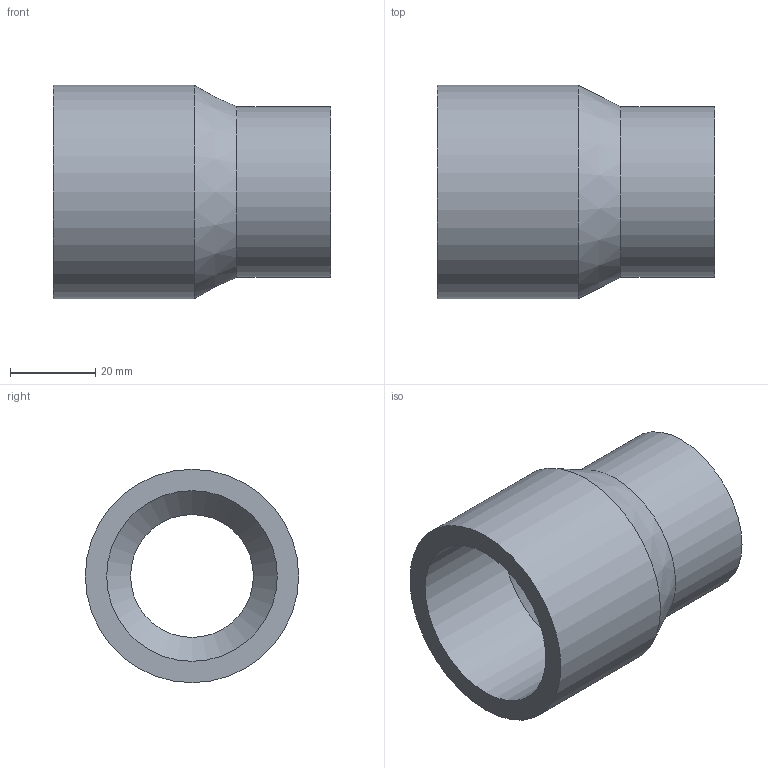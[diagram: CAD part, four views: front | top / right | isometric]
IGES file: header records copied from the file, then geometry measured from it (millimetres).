
Global section: file name: 050200050032.ipt; native system: Autodesk Inventor 2015; preprocessor: unknown; author: KIM; date: 20171207.164202; units: millimetre
Bounding box: 65 x 50 x 50 mm (x, y, z)
Volume: 45368 mm3; surface area: 18207.1 mm2
Topology: 1 solids, 1 shells, 10 faces, 23 edges, 16 vertices
Faces by surface type: revolution 4, plane 3, cylinder 2, cone 1
Full cylindrical faces by diameter (mm): 40 x1, 50 x1
